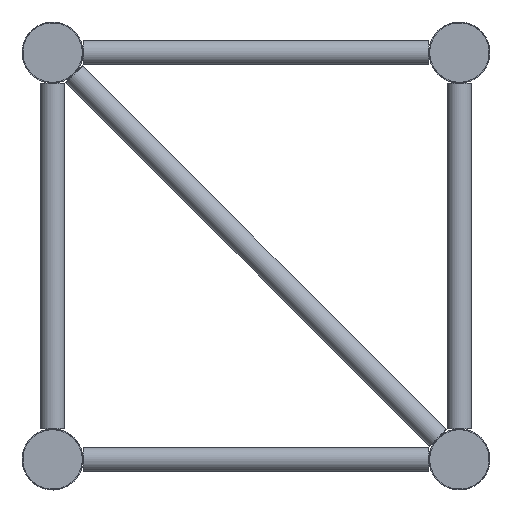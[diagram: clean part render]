
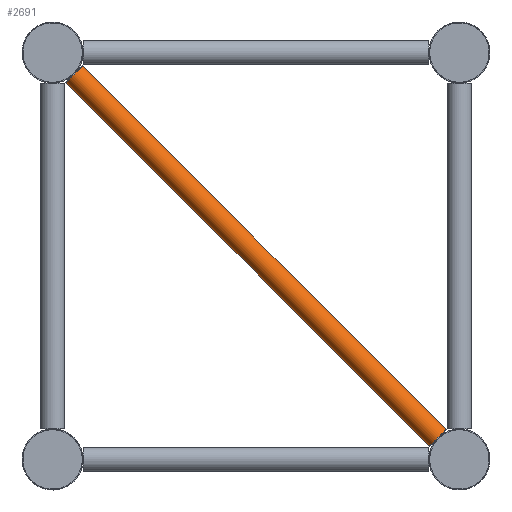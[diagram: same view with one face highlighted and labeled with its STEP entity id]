
A CAD part, left-side view. The second image highlights one B-rep face of the part: STEP entity #2691.
In plain terms, the highlighted cylindrical face has radius 10 mm (diameter 20 mm), a full revolution.
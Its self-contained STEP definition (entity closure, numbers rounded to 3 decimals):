
#389=CYLINDRICAL_SURFACE('',#2996,10.);
#515=FACE_BOUND('',#980,.T.);
#684=FACE_OUTER_BOUND('',#979,.T.);
#979=EDGE_LOOP('',(#2231));
#980=EDGE_LOOP('',(#2232));
#1048=CIRCLE('',#2995,10.);
#1049=CIRCLE('',#2997,10.);
#1276=VERTEX_POINT('',#5266);
#1277=VERTEX_POINT('',#5269);
#1584=EDGE_CURVE('',#1276,#1276,#1048,.T.);
#1585=EDGE_CURVE('',#1277,#1277,#1049,.T.);
#2231=ORIENTED_EDGE('',*,*,#1584,.T.);
#2232=ORIENTED_EDGE('',*,*,#1585,.T.);
#2691=ADVANCED_FACE('',(#684,#515),#389,.T.);
#2995=AXIS2_PLACEMENT_3D('',#5267,#3677,#3678);
#2996=AXIS2_PLACEMENT_3D('',#5268,#3679,#3680);
#2997=AXIS2_PLACEMENT_3D('',#5270,#3681,#3682);
#3677=DIRECTION('center_axis',(0.,0.707,
0.707));
#3678=DIRECTION('ref_axis',(0.,0.707,-0.707));
#3679=DIRECTION('center_axis',(0.,0.707,
0.707));
#3680=DIRECTION('ref_axis',(0.,0.707,-0.707));
#3681=DIRECTION('center_axis',(0.,-0.707,
-0.707));
#3682=DIRECTION('ref_axis',(0.,0.707,-0.707));
#5266=CARTESIAN_POINT('',(60.,10.967,-313.891));
#5267=CARTESIAN_POINT('Origin',(60.,18.038,-320.962));
#5268=CARTESIAN_POINT('Origin',(60.,169.5,-169.5));
#5269=CARTESIAN_POINT('',(60.,313.891,-10.967));
#5270=CARTESIAN_POINT('Origin',(60.,320.962,-18.038));
